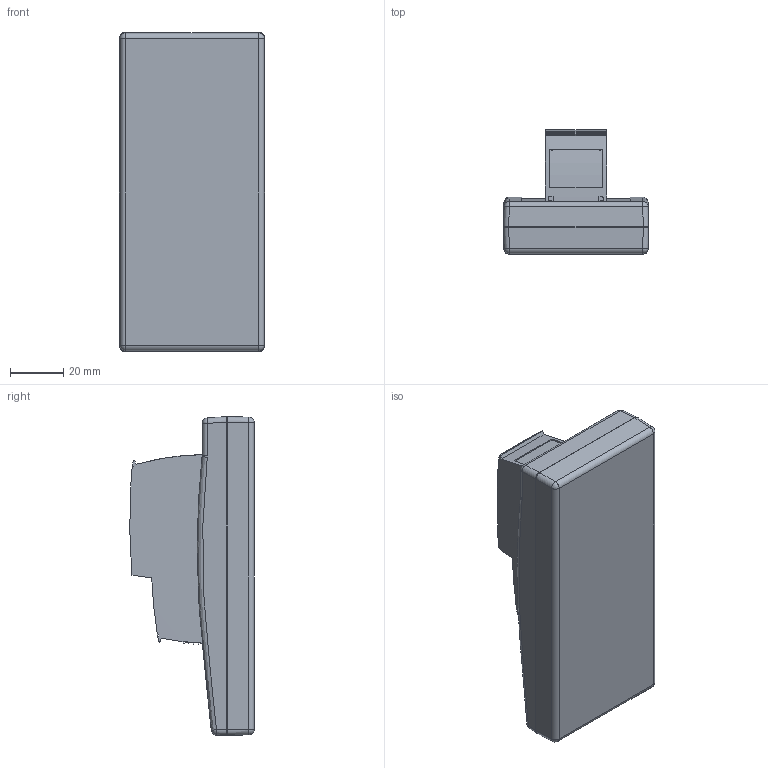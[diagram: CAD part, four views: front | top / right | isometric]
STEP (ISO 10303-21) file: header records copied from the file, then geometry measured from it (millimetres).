
FILE_DESCRIPTION (( 'STEP AP214' ), '1' );
FILE_NAME ('PGMMOD02.STEP', '2024-05-20T11:47:15', ( '' ), ( '' ), 'SwSTEP 2.0', 'SolidWorks 2022', '' );
FILE_SCHEMA (( 'AUTOMOTIVE_DESIGN' ));
Length unit declared in the file: inch
Products named in the file (3): PGMMOD01; PGMMOD02; PGMMOD5_PGMMODC1
Assembly tree (2 placements, depth 2):
  PGMMOD02
    PGMMOD5_PGMMODC1
    PGMMOD01
Bounding box: 54.67 x 46.75 x 119.95 mm (x, y, z)
Volume: 161295.8 mm3; surface area: 27141.3 mm2
Topology: 2 solids, 2 shells, 268 faces, 726 edges, 456 vertices
Faces by surface type: cylinder 130, plane 94, sphere 23, bspline 17, cone 2, torus 2
Entity records: 10024 total; most frequent: CARTESIAN_POINT 3887, ORIENTED_EDGE 1432, DIRECTION 1007, EDGE_CURVE 716, VERTEX_POINT 455, AXIS2_PLACEMENT_3D 361, B_SPLINE_CURVE_WITH_KNOTS 305, VECTOR 285
